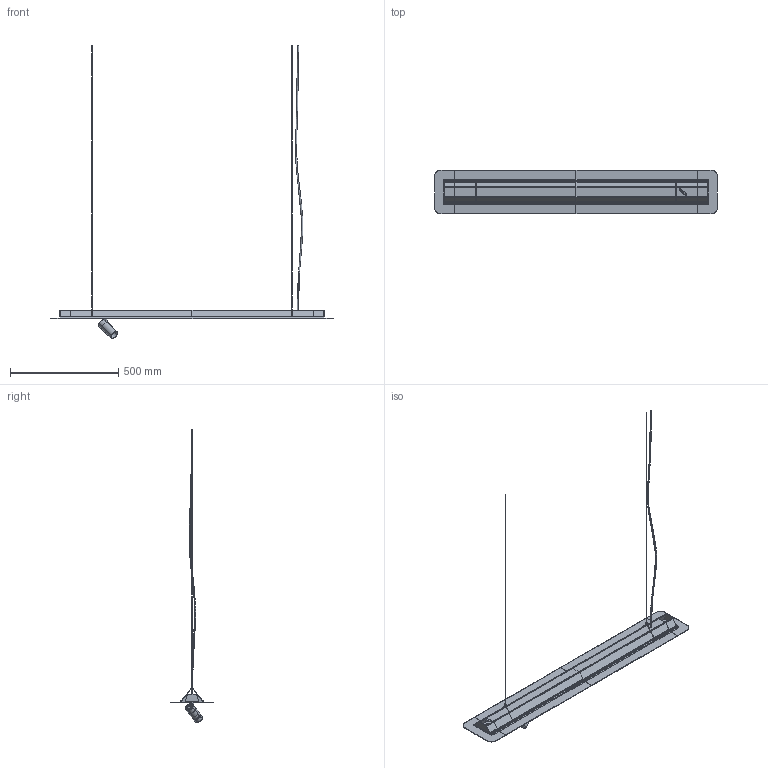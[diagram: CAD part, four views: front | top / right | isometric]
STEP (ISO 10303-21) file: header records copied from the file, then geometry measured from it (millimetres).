
FILE_DESCRIPTION(/* description */ (''),/* implementation_level */ '2;1');
FILE_NAME(/* name */ '1JZM7B~X',/* time_stamp */ '2026-03-05T15:21:08+01:00',/* author */ (''),/* organization */ (''),/* preprocessor_version */ 'ST-DEVELOPER v16.5',/* originating_system */ '',/* authorisation */ '');
FILE_SCHEMA (('AUTOMOTIVE_DESIGN'));
Length unit declared in the file: millimetre
Products named in the file (1): Document
Bounding box: 1308 x 202.03 x 1354.05 mm (x, y, z)
Volume: 2401993.6 mm3; surface area: 1045901.7 mm2
Topology: 34 solids, 36 shells, 882 faces, 2124 edges, 1306 vertices
Faces by surface type: bspline 882
Entity records: 52053 total; most frequent: CARTESIAN_POINT 25868, B_SPLINE_CURVE_WITH_KNOTS 4545, ORIENTED_EDGE 4224, PCURVE 4224, DEFINITIONAL_REPRESENTATION 4224, SURFACE_CURVE 2122, EDGE_CURVE 2122, VERTEX_POINT 1306
